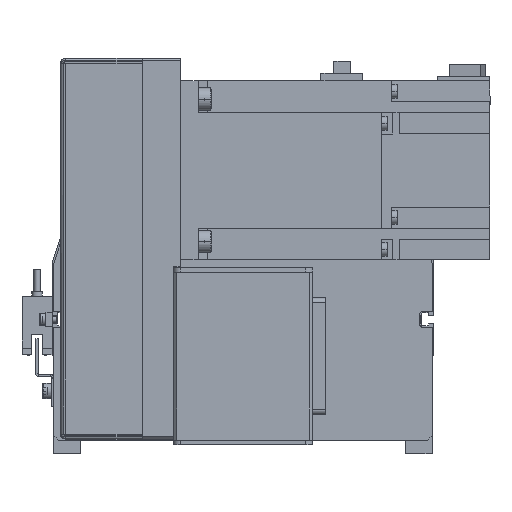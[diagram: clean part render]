
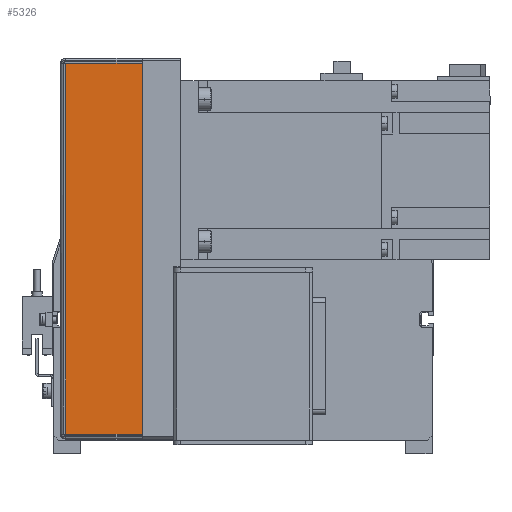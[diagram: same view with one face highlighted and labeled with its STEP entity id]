
A CAD part, front view. The second image highlights one B-rep face of the part: STEP entity #5326.
In plain terms, the highlighted planar face has unit normal (0, -1, 0).
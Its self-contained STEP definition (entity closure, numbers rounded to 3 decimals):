
#681 = ORIENTED_EDGE ( 'NONE', *, *, #34557, .T. ) ;
#1211 = ORIENTED_EDGE ( 'NONE', *, *, #36664, .F. ) ;
#4075 = DIRECTION ( 'NONE',  ( 0., 0., -1. ) ) ;
#5240 = CARTESIAN_POINT ( 'NONE',  ( 97.724, -45.778, 177. ) ) ;
#5272 = LINE ( 'NONE', #32064, #28363 ) ;
#5326 = ADVANCED_FACE ( 'NONE', ( #25336 ), #8094, .F. ) ;
#5391 = AXIS2_PLACEMENT_3D ( 'NONE', #29224, #28833, #13623 ) ;
#5845 = LINE ( 'NONE', #23382, #38850 ) ;
#6893 = VERTEX_POINT ( 'NONE', #16869 ) ;
#8094 = PLANE ( 'NONE',  #5391 ) ;
#10328 = ORIENTED_EDGE ( 'NONE', *, *, #13259, .F. ) ;
#11578 = LINE ( 'NONE', #19043, #30506 ) ;
#13259 = EDGE_CURVE ( 'NONE', #6893, #38410, #5272, .T. ) ;
#13623 = DIRECTION ( 'NONE',  ( 0., 0., 1. ) ) ;
#14096 = VECTOR ( 'NONE', #27963, 1000. ) ;
#16869 = CARTESIAN_POINT ( 'NONE',  ( -67.862, -45.778, 211.263 ) ) ;
#16899 = EDGE_LOOP ( 'NONE', ( #1211, #10328, #681, #31386 ) ) ;
#19043 = CARTESIAN_POINT ( 'NONE',  ( 97.724, -45.778, 212. ) ) ;
#19783 = DIRECTION ( 'NONE',  ( 1., 0., 0. ) ) ;
#23212 = VERTEX_POINT ( 'NONE', #5240 ) ;
#23382 = CARTESIAN_POINT ( 'NONE',  ( 14.931, -45.778, 177. ) ) ;
#24939 = CARTESIAN_POINT ( 'NONE',  ( -67.862, -45.778, 213.5 ) ) ;
#24980 = LINE ( 'NONE', #24939, #14096 ) ;
#25336 = FACE_OUTER_BOUND ( 'NONE', #16899, .T. ) ;
#25348 = CARTESIAN_POINT ( 'NONE',  ( -67.862, -45.778, 177. ) ) ;
#27514 = VERTEX_POINT ( 'NONE', #25348 ) ;
#27963 = DIRECTION ( 'NONE',  ( 0., 0., -1. ) ) ;
#28363 = VECTOR ( 'NONE', #19783, 1000. ) ;
#28833 = DIRECTION ( 'NONE',  ( 0., 1., 0. ) ) ;
#29219 = DIRECTION ( 'NONE',  ( 1., 0., 0. ) ) ;
#29224 = CARTESIAN_POINT ( 'NONE',  ( 14.931, -45.778, 213.5 ) ) ;
#30506 = VECTOR ( 'NONE', #4075, 1000. ) ;
#31386 = ORIENTED_EDGE ( 'NONE', *, *, #38898, .T. ) ;
#32064 = CARTESIAN_POINT ( 'NONE',  ( 99.931, -45.778, 211.263 ) ) ;
#34557 = EDGE_CURVE ( 'NONE', #6893, #27514, #24980, .T. ) ;
#36232 = CARTESIAN_POINT ( 'NONE',  ( 97.724, -45.778, 211.263 ) ) ;
#36664 = EDGE_CURVE ( 'NONE', #38410, #23212, #11578, .T. ) ;
#38410 = VERTEX_POINT ( 'NONE', #36232 ) ;
#38850 = VECTOR ( 'NONE', #29219, 1000. ) ;
#38898 = EDGE_CURVE ( 'NONE', #27514, #23212, #5845, .T. ) ;
